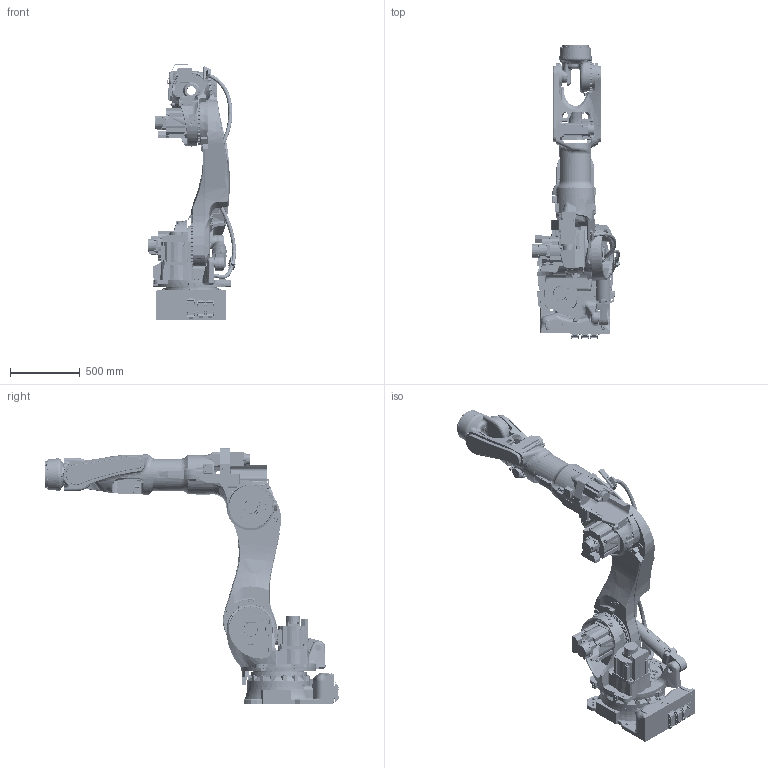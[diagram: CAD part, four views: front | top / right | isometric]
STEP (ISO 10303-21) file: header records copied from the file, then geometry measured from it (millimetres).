
FILE_DESCRIPTION(('CATIA V5 STEP Exchange'),'2;1');
FILE_NAME('D:\モデリング\☆☆☆STEP\BX\BX165\BX165N-C001_200630\RARAS_200630\Part\BX165N-C001.stp','2020-07-01T04:17:08+00:00',('none'),('none'),'CATIA Version 5-6 Release 2016 SP6 HF14','CATIA V5 STEP AP203','none');
FILE_SCHEMA(('CONFIG_CONTROL_DESIGN'));
Products named in the file (1): BX165N-C001
Assembly tree (10 placements, depth 2):
  BX165N-C001
    #57
    #45404
    #81600
    #90435
    #94882
    #137628
    #187154
    #282729
    #333500
    #337140
Bounding box: 630.89 x 2108.76 x 1827.57 mm (x, y, z)
Volume: 203080550.6 mm3; surface area: 9986424.3 mm2
Topology: 25 solids, 27 shells, 7881 faces, 20624 edges, 13231 vertices
Faces by surface type: plane 3261, cylinder 2551, bspline 818, cone 535, extrusion 355, torus 195, revolution 107, sphere 59
Entity records: 339740 total; most frequent: CARTESIAN_POINT 165926, ORIENTED_EDGE 40888, DIRECTION 25817, EDGE_CURVE 20444, VERTEX_POINT 13225, AXIS2_PLACEMENT_3D 10857, VECTOR 9487, LINE 9132
